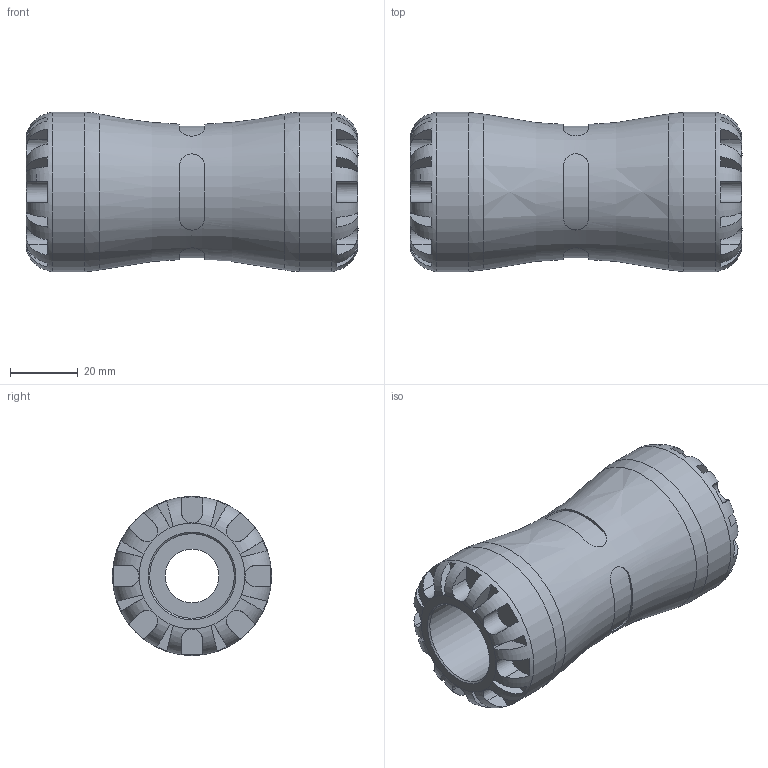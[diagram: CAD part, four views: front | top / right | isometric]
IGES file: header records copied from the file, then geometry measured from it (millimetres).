
Global section: file name: 1001M6025007.ipt; native system: Autodesk Inventor 2015; preprocessor: unknown; author: KIM; date: 20170122.104724; units: millimetre
Bounding box: 98 x 47 x 47 mm (x, y, z)
Volume: 104805.8 mm3; surface area: 24827.1 mm2
Topology: 1 solids, 1 shells, 164 faces, 427 edges, 270 vertices
Faces by surface type: plane 108, revolution 34, cylinder 22
Full cylindrical faces by diameter (mm): 47 x2
